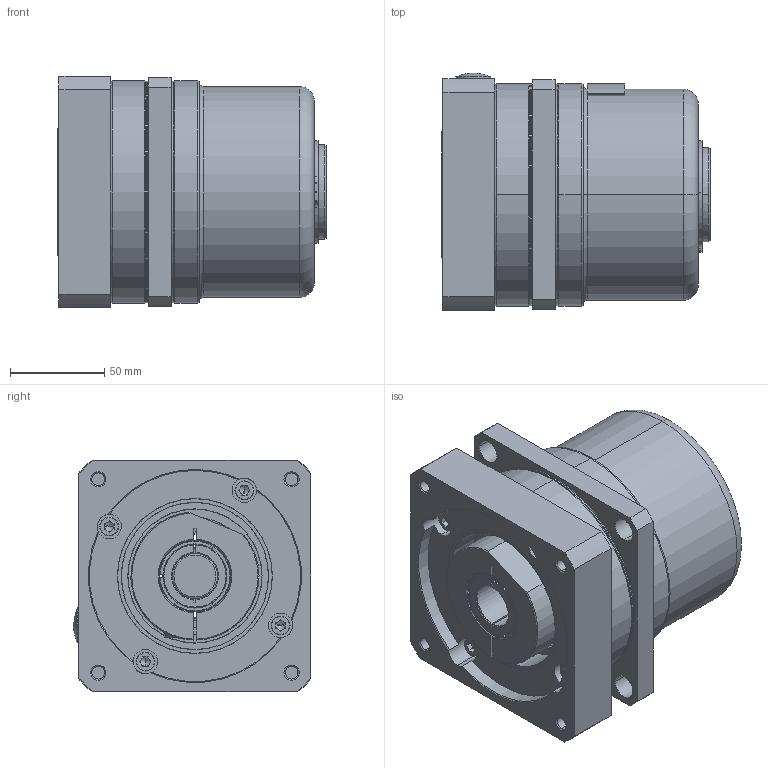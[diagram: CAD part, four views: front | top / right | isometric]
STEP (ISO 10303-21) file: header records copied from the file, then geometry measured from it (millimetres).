
FILE_DESCRIPTION (( 'STEP AP214' ), '1' );
FILE_NAME ('PL-030-0RR-FFF-MMM-F-LL-XXX-AXX-DDCC.STEP', '2019-10-24T15:10:10', ( '' ), ( '' ), 'SwSTEP 2.0', 'SolidWorks 2019', '' );
FILE_SCHEMA (( 'AUTOMOTIVE_DESIGN' ));
Length unit declared in the file: millimetre
Products named in the file (1): PL-030-0RR-FFF-MMM-F-LL-XXX-AXX-DDCC
Bounding box: 142.2 x 126.1 x 123 mm (x, y, z)
Surface area: 133986.2 mm2 (no closed solid volume)
Topology: 0 solids, 24 shells, 336 faces, 992 edges, 669 vertices
Faces by surface type: cylinder 116, plane 100, cone 83, torus 35, sphere 2
Entity records: 15404 total; most frequent: CARTESIAN_POINT 2700, DIRECTION 2000, ORIENTED_EDGE 1659, EDGE_CURVE 984, AXIS2_PLACEMENT_3D 794, VERTEX_POINT 669, CIRCLE 457, LINE 412
